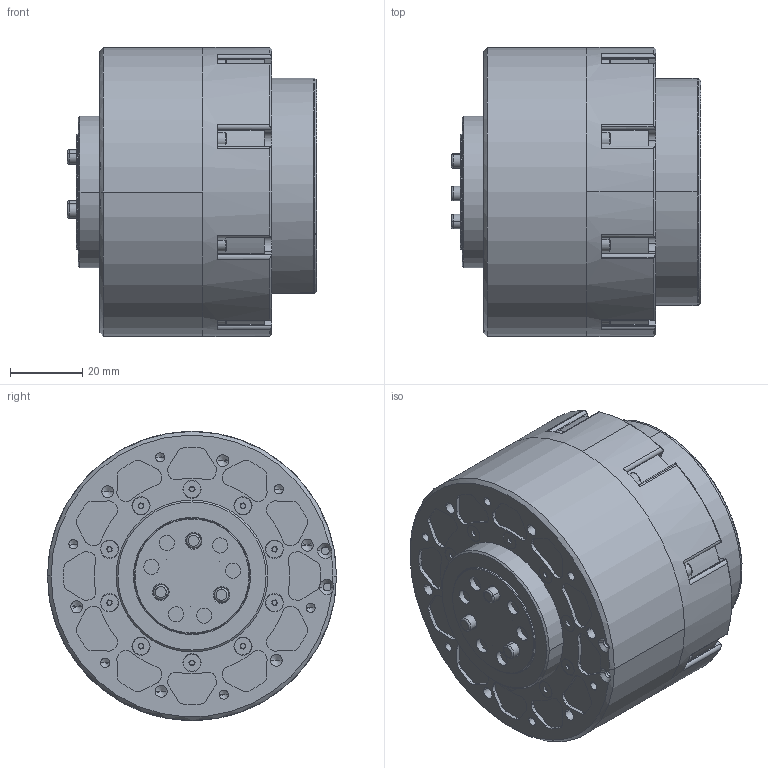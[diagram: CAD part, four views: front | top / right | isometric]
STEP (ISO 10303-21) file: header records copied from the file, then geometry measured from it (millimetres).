
FILE_DESCRIPTION (( 'STEP AP214' ), '1' );
FILE_NAME ('MG6036B.STEP', '2024-09-26T09:48:31', ( 'zhang_jianheng@outlook.com' ), ( 'HP' ), 'SwSTEP 2.0', 'SolidWorks 2020', '' );
FILE_SCHEMA (( 'AUTOMOTIVE_DESIGN' ));
Length unit declared in the file: millimetre
Products named in the file (1): MG6036B
Bounding box: 69 x 80 x 80 mm (x, y, z)
Volume: 255952 mm3; surface area: 64197.5 mm2
Topology: 54 solids, 55 shells, 2684 faces, 6823 edges, 4376 vertices
Faces by surface type: plane 1487, cylinder 866, cone 212, bspline 103, torus 16
Entity records: 116247 total; most frequent: CARTESIAN_POINT 20777, DIRECTION 13672, ORIENTED_EDGE 13482, EDGE_CURVE 6741, AXIS2_PLACEMENT_3D 4689, VERTEX_POINT 4376, LINE 4294, VECTOR 4294
